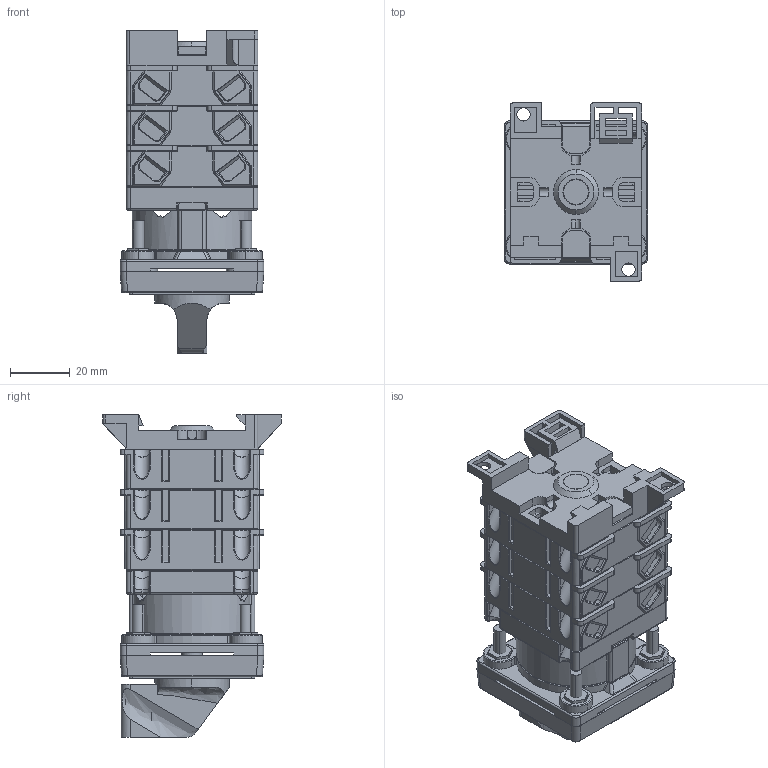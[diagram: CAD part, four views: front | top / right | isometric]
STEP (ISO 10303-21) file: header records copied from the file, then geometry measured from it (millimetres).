
FILE_DESCRIPTION (( 'STEP AP214' ), '1' );
FILE_NAME ('Ïåðåêëþ÷àòåëü 4G10-XXXX-U-S18-R012,R014,S24 3ê.STEP', '2022-11-28T05:50:59', ( '' ), ( '' ), 'SwSTEP 2.0', 'SolidWorks 2018', '' );
FILE_SCHEMA (( 'AUTOMOTIVE_DESIGN' ));
Length unit declared in the file: millimetre
Products named in the file (1): Ïåðåêëþ÷àòåëü 4G10-XXXX-U-S18-R012,R014,S24 3ê
Bounding box: 48 x 59.6 x 107.9 mm (x, y, z)
Volume: 141417.7 mm3; surface area: 73315.5 mm2
Topology: 26 solids, 50 shells, 3993 faces, 10276 edges, 6487 vertices
Faces by surface type: plane 2244, cylinder 1271, torus 194, cone 157, bspline 75, sphere 52
Entity records: 175250 total; most frequent: CARTESIAN_POINT 35027, ORIENTED_EDGE 20454, DIRECTION 19613, EDGE_CURVE 10227, LINE 6769, VECTOR 6769, VERTEX_POINT 6475, AXIS2_PLACEMENT_3D 6422
